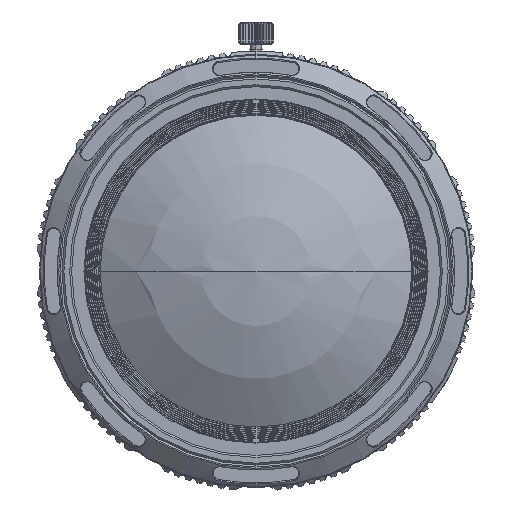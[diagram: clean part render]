
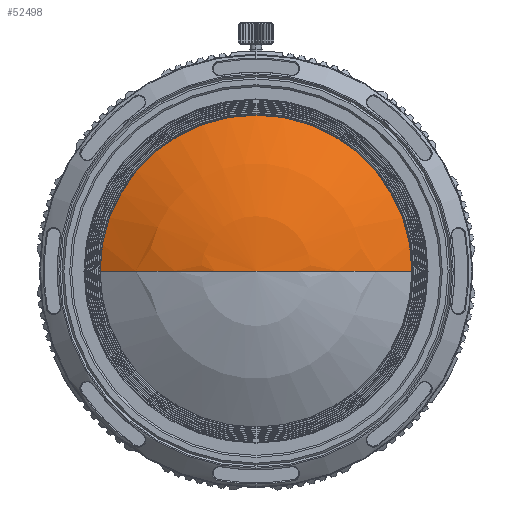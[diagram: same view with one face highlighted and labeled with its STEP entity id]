
A CAD part, left-side view. The second image highlights one B-rep face of the part: STEP entity #52498.
In plain terms, the highlighted spherical face has radius 43.385 mm.
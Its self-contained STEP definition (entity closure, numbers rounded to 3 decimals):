
#19996=CARTESIAN_POINT('',(-34.829,0.,0.));
#19997=DIRECTION('',(1.,0.,0.));
#19998=DIRECTION('',(0.,1.,0.));
#19999=AXIS2_PLACEMENT_3D('',#19996,#19997,#19998);
#20006=CARTESIAN_POINT('',(1.2,0.,0.));
#20007=DIRECTION('',(0.,0.,1.));
#20008=DIRECTION('',(-0.83,0.557,0.));
#20009=AXIS2_PLACEMENT_3D('',#20006,#20007,#20008);
#20011=CARTESIAN_POINT('',(1.2,0.,0.));
#20012=DIRECTION('',(0.,0.,-1.));
#20013=DIRECTION('',(-0.83,-0.557,0.));
#20014=AXIS2_PLACEMENT_3D('',#20011,#20012,#20013);
#23074=CARTESIAN_POINT('',(-34.829,24.17,0.));
#23075=CARTESIAN_POINT('',(-34.829,-24.17,0.));
#23076=VERTEX_POINT('',#23074);
#23077=VERTEX_POINT('',#23075);
#23173=CARTESIAN_POINT('',(-42.185,0.,0.));
#23174=VERTEX_POINT('',#23173);
#52486=CARTESIAN_POINT('',(1.2,0.,0.));
#52487=DIRECTION('',(1.,0.,0.));
#52488=DIRECTION('',(0.,-1.,0.));
#52489=AXIS2_PLACEMENT_3D('',#52486,#52487,#52488);
#52490=SPHERICAL_SURFACE('',#52489,43.385);
#52491=ORIENTED_EDGE('',*,*,#52479,.T.);
#52493=ORIENTED_EDGE('',*,*,#52492,.T.);
#52495=ORIENTED_EDGE('',*,*,#52494,.F.);
#52496=EDGE_LOOP('',(#52491,#52493,#52495));
#52497=FACE_OUTER_BOUND('',#52496,.F.);
#20000=CIRCLE('',#19999,24.17);
#20010=CIRCLE('',#20009,43.385);
#20015=CIRCLE('',#20014,43.385);
#52479=EDGE_CURVE('',#23076,#23077,#20000,.T.);
#52492=EDGE_CURVE('',#23077,#23174,#20015,.T.);
#52494=EDGE_CURVE('',#23076,#23174,#20010,.T.);
#52498=ADVANCED_FACE('',(#52497),#52490,.T.);
